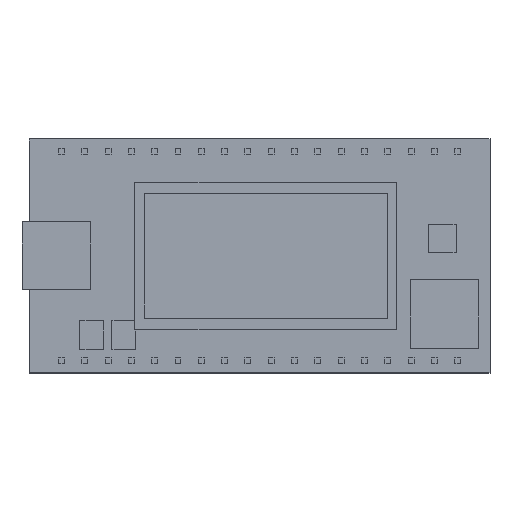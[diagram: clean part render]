
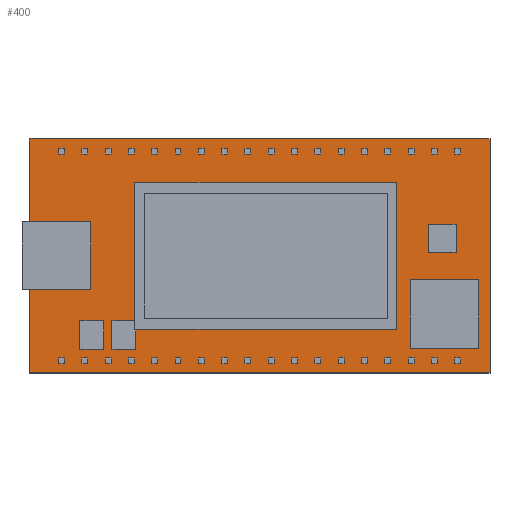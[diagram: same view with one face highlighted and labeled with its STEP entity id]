
A CAD part, top view. The second image highlights one B-rep face of the part: STEP entity #400.
In plain terms, the highlighted planar face has unit normal (0, 0, 1).
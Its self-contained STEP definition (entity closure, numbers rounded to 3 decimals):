
#86 = VERTEX_POINT('',#87);
#87 = CARTESIAN_POINT('',(-3.5,-24.18,12.));
#94 = PLANE('',#95);
#95 = AXIS2_PLACEMENT_3D('',#96,#97,#98);
#96 = CARTESIAN_POINT('',(-3.5,-24.18,11.));
#97 = DIRECTION('',(1.,0.,0.));
#98 = DIRECTION('',(0.,0.,1.));
#106 = PLANE('',#107);
#107 = AXIS2_PLACEMENT_3D('',#108,#109,#110);
#108 = CARTESIAN_POINT('',(-3.5,-24.18,11.));
#109 = DIRECTION('',(0.,1.,0.));
#110 = DIRECTION('',(0.,0.,1.));
#147 = VERTEX_POINT('',#148);
#148 = CARTESIAN_POINT('',(-3.5,1.32,12.));
#162 = PLANE('',#163);
#163 = AXIS2_PLACEMENT_3D('',#164,#165,#166);
#164 = CARTESIAN_POINT('',(-3.5,1.32,11.));
#165 = DIRECTION('',(0.,1.,0.));
#166 = DIRECTION('',(0.,0.,1.));
#174 = EDGE_CURVE('',#86,#147,#175,.T.);
#175 = SURFACE_CURVE('',#176,(#180,#187),.PCURVE_S1.);
#176 = LINE('',#177,#178);
#177 = CARTESIAN_POINT('',(-3.5,-24.18,12.));
#178 = VECTOR('',#179,1.);
#179 = DIRECTION('',(0.,1.,0.));
#180 = PCURVE('',#94,#181);
#181 = DEFINITIONAL_REPRESENTATION('',(#182),#186);
#182 = LINE('',#183,#184);
#183 = CARTESIAN_POINT('',(1.,0.));
#184 = VECTOR('',#185,1.);
#185 = DIRECTION('',(0.,-1.));
#186 = ( GEOMETRIC_REPRESENTATION_CONTEXT(2) 
PARAMETRIC_REPRESENTATION_CONTEXT() REPRESENTATION_CONTEXT('2D SPACE',''
  ) );
#187 = PCURVE('',#188,#193);
#188 = PLANE('',#189);
#189 = AXIS2_PLACEMENT_3D('',#190,#191,#192);
#190 = CARTESIAN_POINT('',(-3.5,-24.18,12.));
#191 = DIRECTION('',(0.,0.,1.));
#192 = DIRECTION('',(1.,0.,0.));
#193 = DEFINITIONAL_REPRESENTATION('',(#194),#198);
#194 = LINE('',#195,#196);
#195 = CARTESIAN_POINT('',(0.,0.));
#196 = VECTOR('',#197,1.);
#197 = DIRECTION('',(0.,1.));
#198 = ( GEOMETRIC_REPRESENTATION_CONTEXT(2) 
PARAMETRIC_REPRESENTATION_CONTEXT() REPRESENTATION_CONTEXT('2D SPACE',''
  ) );
#206 = VERTEX_POINT('',#207);
#207 = CARTESIAN_POINT('',(46.7,-24.18,12.));
#214 = PLANE('',#215);
#215 = AXIS2_PLACEMENT_3D('',#216,#217,#218);
#216 = CARTESIAN_POINT('',(46.7,-24.18,11.));
#217 = DIRECTION('',(1.,0.,0.));
#218 = DIRECTION('',(0.,0.,1.));
#257 = VERTEX_POINT('',#258);
#258 = CARTESIAN_POINT('',(46.7,1.32,12.));
#279 = EDGE_CURVE('',#206,#257,#280,.T.);
#280 = SURFACE_CURVE('',#281,(#285,#292),.PCURVE_S1.);
#281 = LINE('',#282,#283);
#282 = CARTESIAN_POINT('',(46.7,-24.18,12.));
#283 = VECTOR('',#284,1.);
#284 = DIRECTION('',(0.,1.,0.));
#285 = PCURVE('',#214,#286);
#286 = DEFINITIONAL_REPRESENTATION('',(#287),#291);
#287 = LINE('',#288,#289);
#288 = CARTESIAN_POINT('',(1.,0.));
#289 = VECTOR('',#290,1.);
#290 = DIRECTION('',(0.,-1.));
#291 = ( GEOMETRIC_REPRESENTATION_CONTEXT(2) 
PARAMETRIC_REPRESENTATION_CONTEXT() REPRESENTATION_CONTEXT('2D SPACE',''
  ) );
#292 = PCURVE('',#188,#293);
#293 = DEFINITIONAL_REPRESENTATION('',(#294),#298);
#294 = LINE('',#295,#296);
#295 = CARTESIAN_POINT('',(50.2,0.));
#296 = VECTOR('',#297,1.);
#297 = DIRECTION('',(0.,1.));
#298 = ( GEOMETRIC_REPRESENTATION_CONTEXT(2) 
PARAMETRIC_REPRESENTATION_CONTEXT() REPRESENTATION_CONTEXT('2D SPACE',''
  ) );
#325 = EDGE_CURVE('',#86,#206,#326,.T.);
#326 = SURFACE_CURVE('',#327,(#331,#338),.PCURVE_S1.);
#327 = LINE('',#328,#329);
#328 = CARTESIAN_POINT('',(-3.5,-24.18,12.));
#329 = VECTOR('',#330,1.);
#330 = DIRECTION('',(1.,0.,0.));
#331 = PCURVE('',#106,#332);
#332 = DEFINITIONAL_REPRESENTATION('',(#333),#337);
#333 = LINE('',#334,#335);
#334 = CARTESIAN_POINT('',(1.,0.));
#335 = VECTOR('',#336,1.);
#336 = DIRECTION('',(0.,1.));
#337 = ( GEOMETRIC_REPRESENTATION_CONTEXT(2) 
PARAMETRIC_REPRESENTATION_CONTEXT() REPRESENTATION_CONTEXT('2D SPACE',''
  ) );
#338 = PCURVE('',#188,#339);
#339 = DEFINITIONAL_REPRESENTATION('',(#340),#344);
#340 = LINE('',#341,#342);
#341 = CARTESIAN_POINT('',(0.,0.));
#342 = VECTOR('',#343,1.);
#343 = DIRECTION('',(1.,0.));
#344 = ( GEOMETRIC_REPRESENTATION_CONTEXT(2) 
PARAMETRIC_REPRESENTATION_CONTEXT() REPRESENTATION_CONTEXT('2D SPACE',''
  ) );
#372 = EDGE_CURVE('',#147,#257,#373,.T.);
#373 = SURFACE_CURVE('',#374,(#378,#385),.PCURVE_S1.);
#374 = LINE('',#375,#376);
#375 = CARTESIAN_POINT('',(-3.5,1.32,12.));
#376 = VECTOR('',#377,1.);
#377 = DIRECTION('',(1.,0.,0.));
#378 = PCURVE('',#162,#379);
#379 = DEFINITIONAL_REPRESENTATION('',(#380),#384);
#380 = LINE('',#381,#382);
#381 = CARTESIAN_POINT('',(1.,0.));
#382 = VECTOR('',#383,1.);
#383 = DIRECTION('',(0.,1.));
#384 = ( GEOMETRIC_REPRESENTATION_CONTEXT(2) 
PARAMETRIC_REPRESENTATION_CONTEXT() REPRESENTATION_CONTEXT('2D SPACE',''
  ) );
#385 = PCURVE('',#188,#386);
#386 = DEFINITIONAL_REPRESENTATION('',(#387),#391);
#387 = LINE('',#388,#389);
#388 = CARTESIAN_POINT('',(0.,25.5));
#389 = VECTOR('',#390,1.);
#390 = DIRECTION('',(1.,0.));
#391 = ( GEOMETRIC_REPRESENTATION_CONTEXT(2) 
PARAMETRIC_REPRESENTATION_CONTEXT() REPRESENTATION_CONTEXT('2D SPACE',''
  ) );
#400 = ADVANCED_FACE('',(#401),#188,.T.);
#401 = FACE_BOUND('',#402,.T.);
#402 = EDGE_LOOP('',(#403,#404,#405,#406));
#403 = ORIENTED_EDGE('',*,*,#174,.F.);
#404 = ORIENTED_EDGE('',*,*,#325,.T.);
#405 = ORIENTED_EDGE('',*,*,#279,.T.);
#406 = ORIENTED_EDGE('',*,*,#372,.F.);
